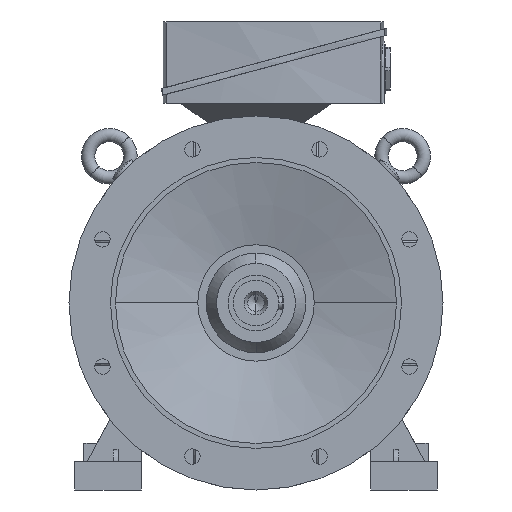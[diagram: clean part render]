
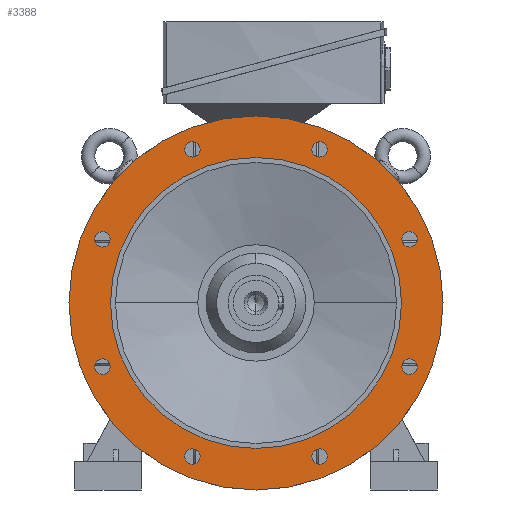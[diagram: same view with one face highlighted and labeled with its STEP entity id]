
A CAD part, left-side view. The second image highlights one B-rep face of the part: STEP entity #3388.
In plain terms, the highlighted planar face has unit normal (-1, 0, 0).
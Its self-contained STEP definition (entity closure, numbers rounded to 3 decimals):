
#3388=ADVANCED_FACE('',(#6854,#6855,#6856,#6857,#6858,#6859,#6860,#6861,#6862,#6863),#6864,.T.);
#6854=FACE_BOUND('',#10331,.T.);
#6855=FACE_BOUND('',#10332,.T.);
#6856=FACE_BOUND('',#10333,.T.);
#6857=FACE_BOUND('',#10334,.T.);
#6858=FACE_BOUND('',#10335,.T.);
#6859=FACE_BOUND('',#10336,.T.);
#6860=FACE_BOUND('',#10337,.T.);
#6861=FACE_BOUND('',#10338,.T.);
#6862=FACE_OUTER_BOUND('',#10339,.T.);
#6863=FACE_BOUND('',#10340,.T.);
#6864=PLANE('',#10341);
#10331=EDGE_LOOP('',(#21125,#21126));
#10332=EDGE_LOOP('',(#21127,#21128));
#10333=EDGE_LOOP('',(#21129,#21130));
#10334=EDGE_LOOP('',(#21131,#21132));
#10335=EDGE_LOOP('',(#21133,#21134));
#10336=EDGE_LOOP('',(#21135,#21136));
#10337=EDGE_LOOP('',(#21137,#21138));
#10338=EDGE_LOOP('',(#21139,#21140));
#10339=EDGE_LOOP('',(#21141,#21142));
#10340=EDGE_LOOP('',(#21143,#21144));
#10341=AXIS2_PLACEMENT_3D('',#21145,#21146,#21147);
#21125=ORIENTED_EDGE('',*,*,#25405,.T.);
#21126=ORIENTED_EDGE('',*,*,#21279,.T.);
#21127=ORIENTED_EDGE('',*,*,#25408,.T.);
#21128=ORIENTED_EDGE('',*,*,#21274,.T.);
#21129=ORIENTED_EDGE('',*,*,#25411,.T.);
#21130=ORIENTED_EDGE('',*,*,#21269,.T.);
#21131=ORIENTED_EDGE('',*,*,#25414,.T.);
#21132=ORIENTED_EDGE('',*,*,#21264,.T.);
#21133=ORIENTED_EDGE('',*,*,#25417,.T.);
#21134=ORIENTED_EDGE('',*,*,#21259,.T.);
#21135=ORIENTED_EDGE('',*,*,#25420,.T.);
#21136=ORIENTED_EDGE('',*,*,#21254,.T.);
#21137=ORIENTED_EDGE('',*,*,#25423,.T.);
#21138=ORIENTED_EDGE('',*,*,#21249,.T.);
#21139=ORIENTED_EDGE('',*,*,#25426,.T.);
#21140=ORIENTED_EDGE('',*,*,#21244,.T.);
#21141=ORIENTED_EDGE('',*,*,#21208,.F.);
#21142=ORIENTED_EDGE('',*,*,#25466,.F.);
#21143=ORIENTED_EDGE('',*,*,#21215,.T.);
#21144=ORIENTED_EDGE('',*,*,#25464,.T.);
#21145=CARTESIAN_POINT('',(-88.0,200.0,0.0));
#21146=DIRECTION('',(-1.0,0.0,0.0));
#21147=DIRECTION('',(0.0,-1.0,0.0));
#21208=EDGE_CURVE('',#25512,#25515,#25516,.T.);
#21215=EDGE_CURVE('',#25522,#25526,#25528,.T.);
#21244=EDGE_CURVE('',#25577,#25574,#25578,.T.);
#21249=EDGE_CURVE('',#25586,#25583,#25587,.T.);
#21254=EDGE_CURVE('',#25595,#25592,#25596,.T.);
#21259=EDGE_CURVE('',#25604,#25601,#25605,.T.);
#21264=EDGE_CURVE('',#25613,#25610,#25614,.T.);
#21269=EDGE_CURVE('',#25622,#25619,#25623,.T.);
#21274=EDGE_CURVE('',#25631,#25628,#25632,.T.);
#21279=EDGE_CURVE('',#25640,#25637,#25641,.T.);
#25405=EDGE_CURVE('',#25637,#25640,#31790,.T.);
#25408=EDGE_CURVE('',#25628,#25631,#31793,.T.);
#25411=EDGE_CURVE('',#25619,#25622,#31796,.T.);
#25414=EDGE_CURVE('',#25610,#25613,#31799,.T.);
#25417=EDGE_CURVE('',#25601,#25604,#31802,.T.);
#25420=EDGE_CURVE('',#25592,#25595,#31805,.T.);
#25423=EDGE_CURVE('',#25583,#25586,#31808,.T.);
#25426=EDGE_CURVE('',#25574,#25577,#31811,.T.);
#25464=EDGE_CURVE('',#25526,#25522,#31849,.T.);
#25466=EDGE_CURVE('',#25515,#25512,#31851,.T.);
#25512=VERTEX_POINT('',#32039);
#25515=VERTEX_POINT('',#32043);
#25516=CIRCLE('',#32044,225.0);
#25522=VERTEX_POINT('',#32051);
#25526=VERTEX_POINT('',#32056);
#25528=CIRCLE('',#32059,175.0);
#25574=VERTEX_POINT('',#32113);
#25577=VERTEX_POINT('',#32117);
#25578=CIRCLE('',#32118,9.25);
#25583=VERTEX_POINT('',#32124);
#25586=VERTEX_POINT('',#32128);
#25587=CIRCLE('',#32129,9.25);
#25592=VERTEX_POINT('',#32135);
#25595=VERTEX_POINT('',#32139);
#25596=CIRCLE('',#32140,9.25);
#25601=VERTEX_POINT('',#32146);
#25604=VERTEX_POINT('',#32150);
#25605=CIRCLE('',#32151,9.25);
#25610=VERTEX_POINT('',#32157);
#25613=VERTEX_POINT('',#32161);
#25614=CIRCLE('',#32162,9.25);
#25619=VERTEX_POINT('',#32168);
#25622=VERTEX_POINT('',#32172);
#25623=CIRCLE('',#32173,9.25);
#25628=VERTEX_POINT('',#32179);
#25631=VERTEX_POINT('',#32183);
#25632=CIRCLE('',#32184,9.25);
#25637=VERTEX_POINT('',#32190);
#25640=VERTEX_POINT('',#32194);
#25641=CIRCLE('',#32195,9.25);
#31790=CIRCLE('',#52937,9.25);
#31793=CIRCLE('',#52940,9.25);
#31796=CIRCLE('',#52943,9.25);
#31799=CIRCLE('',#52946,9.25);
#31802=CIRCLE('',#52949,9.25);
#31805=CIRCLE('',#52952,9.25);
#31808=CIRCLE('',#52955,9.25);
#31811=CIRCLE('',#52958,9.25);
#31849=CIRCLE('',#53004,175.0);
#31851=CIRCLE('',#53006,225.0);
#32039=CARTESIAN_POINT('',(-88.0,225.0,0.0));
#32043=CARTESIAN_POINT('',(-88.0,-225.0,0.));
#32044=AXIS2_PLACEMENT_3D('',#53054,#53055,#53056);
#32051=CARTESIAN_POINT('',(-88.0,175.0,0.0));
#32056=CARTESIAN_POINT('',(-88.0,-175.0,0.));
#32059=AXIS2_PLACEMENT_3D('',#53066,#53067,#53068);
#32113=CARTESIAN_POINT('',(-88.0,-80.077,193.322));
#32117=CARTESIAN_POINT('',(-88.0,-72.997,176.23));
#32118=AXIS2_PLACEMENT_3D('',#53117,#53118,#53119);
#32124=CARTESIAN_POINT('',(-88.0,80.077,193.322));
#32128=CARTESIAN_POINT('',(-88.0,72.997,176.23));
#32129=AXIS2_PLACEMENT_3D('',#53125,#53126,#53127);
#32135=CARTESIAN_POINT('',(-88.0,193.322,80.077));
#32139=CARTESIAN_POINT('',(-88.0,176.23,72.997));
#32140=AXIS2_PLACEMENT_3D('',#53133,#53134,#53135);
#32146=CARTESIAN_POINT('',(-88.0,193.322,-80.077));
#32150=CARTESIAN_POINT('',(-88.0,176.23,-72.997));
#32151=AXIS2_PLACEMENT_3D('',#53141,#53142,#53143);
#32157=CARTESIAN_POINT('',(-88.0,80.077,-193.322));
#32161=CARTESIAN_POINT('',(-88.0,72.997,-176.23));
#32162=AXIS2_PLACEMENT_3D('',#53149,#53150,#53151);
#32168=CARTESIAN_POINT('',(-88.0,-80.077,-193.322));
#32172=CARTESIAN_POINT('',(-88.0,-72.997,-176.23));
#32173=AXIS2_PLACEMENT_3D('',#53157,#53158,#53159);
#32179=CARTESIAN_POINT('',(-88.0,-193.322,-80.077));
#32183=CARTESIAN_POINT('',(-88.0,-176.23,-72.997));
#32184=AXIS2_PLACEMENT_3D('',#53165,#53166,#53167);
#32190=CARTESIAN_POINT('',(-88.0,-193.322,80.077));
#32194=CARTESIAN_POINT('',(-88.0,-176.23,72.997));
#32195=AXIS2_PLACEMENT_3D('',#53173,#53174,#53175);
#52937=AXIS2_PLACEMENT_3D('',#56790,#56791,#56792);
#52940=AXIS2_PLACEMENT_3D('',#56796,#56797,#56798);
#52943=AXIS2_PLACEMENT_3D('',#56802,#56803,#56804);
#52946=AXIS2_PLACEMENT_3D('',#56808,#56809,#56810);
#52949=AXIS2_PLACEMENT_3D('',#56814,#56815,#56816);
#52952=AXIS2_PLACEMENT_3D('',#56820,#56821,#56822);
#52955=AXIS2_PLACEMENT_3D('',#56826,#56827,#56828);
#52958=AXIS2_PLACEMENT_3D('',#56832,#56833,#56834);
#53004=AXIS2_PLACEMENT_3D('',#56867,#56868,#56869);
#53006=AXIS2_PLACEMENT_3D('',#56870,#56871,#56872);
#53054=CARTESIAN_POINT('',(-88.0,0.0,0.0));
#53055=DIRECTION('',(1.0,0.0,0.0));
#53056=DIRECTION('',(0.0,1.0,0.0));
#53066=CARTESIAN_POINT('',(-88.0,0.0,0.0));
#53067=DIRECTION('',(1.0,0.0,0.0));
#53068=DIRECTION('',(0.0,1.0,0.0));
#53117=CARTESIAN_POINT('',(-88.0,-76.537,184.776));
#53118=DIRECTION('',(1.0,0.0,-0.0));
#53119=DIRECTION('',(0.0,-0.383,0.924));
#53125=CARTESIAN_POINT('',(-88.0,76.537,184.776));
#53126=DIRECTION('',(1.0,0.0,-0.0));
#53127=DIRECTION('',(0.0,0.383,0.924));
#53133=CARTESIAN_POINT('',(-88.0,184.776,76.537));
#53134=DIRECTION('',(1.0,0.0,-0.0));
#53135=DIRECTION('',(0.0,0.924,0.383));
#53141=CARTESIAN_POINT('',(-88.0,184.776,-76.537));
#53142=DIRECTION('',(1.0,-0.0,0.0));
#53143=DIRECTION('',(0.0,0.924,-0.383));
#53149=CARTESIAN_POINT('',(-88.0,76.537,-184.776));
#53150=DIRECTION('',(1.0,-0.0,0.0));
#53151=DIRECTION('',(0.0,0.383,-0.924));
#53157=CARTESIAN_POINT('',(-88.0,-76.537,-184.776));
#53158=DIRECTION('',(1.0,0.0,0.0));
#53159=DIRECTION('',(0.0,-0.383,-0.924));
#53165=CARTESIAN_POINT('',(-88.0,-184.776,-76.537));
#53166=DIRECTION('',(1.0,0.0,0.0));
#53167=DIRECTION('',(0.0,-0.924,-0.383));
#53173=CARTESIAN_POINT('',(-88.0,-184.776,76.537));
#53174=DIRECTION('',(1.0,0.0,-0.0));
#53175=DIRECTION('',(0.0,-0.924,0.383));
#56790=CARTESIAN_POINT('',(-88.0,-184.776,76.537));
#56791=DIRECTION('',(1.0,0.0,-0.0));
#56792=DIRECTION('',(0.0,-0.924,0.383));
#56796=CARTESIAN_POINT('',(-88.0,-184.776,-76.537));
#56797=DIRECTION('',(1.0,0.0,0.0));
#56798=DIRECTION('',(0.0,-0.924,-0.383));
#56802=CARTESIAN_POINT('',(-88.0,-76.537,-184.776));
#56803=DIRECTION('',(1.0,0.0,0.0));
#56804=DIRECTION('',(0.0,-0.383,-0.924));
#56808=CARTESIAN_POINT('',(-88.0,76.537,-184.776));
#56809=DIRECTION('',(1.0,-0.0,0.0));
#56810=DIRECTION('',(0.0,0.383,-0.924));
#56814=CARTESIAN_POINT('',(-88.0,184.776,-76.537));
#56815=DIRECTION('',(1.0,-0.0,0.0));
#56816=DIRECTION('',(0.0,0.924,-0.383));
#56820=CARTESIAN_POINT('',(-88.0,184.776,76.537));
#56821=DIRECTION('',(1.0,0.0,-0.0));
#56822=DIRECTION('',(0.0,0.924,0.383));
#56826=CARTESIAN_POINT('',(-88.0,76.537,184.776));
#56827=DIRECTION('',(1.0,0.0,-0.0));
#56828=DIRECTION('',(0.0,0.383,0.924));
#56832=CARTESIAN_POINT('',(-88.0,-76.537,184.776));
#56833=DIRECTION('',(1.0,0.0,-0.0));
#56834=DIRECTION('',(0.0,-0.383,0.924));
#56867=CARTESIAN_POINT('',(-88.0,0.0,0.0));
#56868=DIRECTION('',(1.0,0.0,0.0));
#56869=DIRECTION('',(0.0,1.0,0.0));
#56870=CARTESIAN_POINT('',(-88.0,0.0,0.0));
#56871=DIRECTION('',(1.0,0.0,0.0));
#56872=DIRECTION('',(0.0,1.0,0.0));
